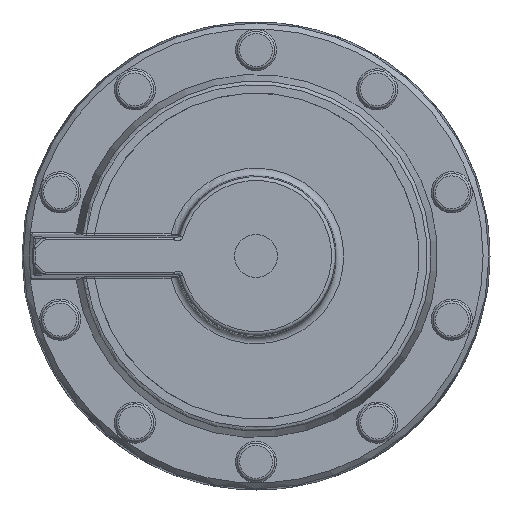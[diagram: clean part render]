
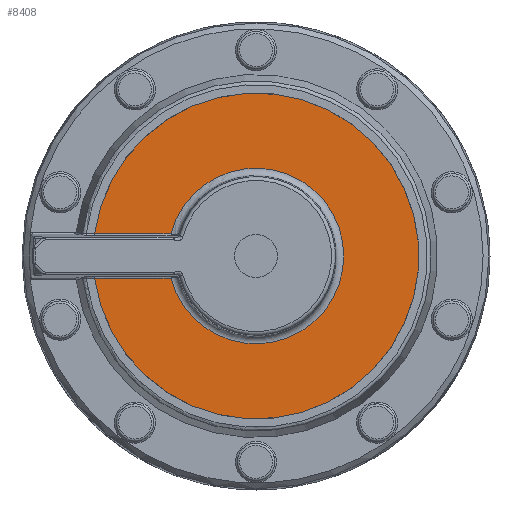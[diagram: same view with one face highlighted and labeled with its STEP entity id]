
A CAD part, front view. The second image highlights one B-rep face of the part: STEP entity #8408.
In plain terms, the highlighted planar face has unit normal (0, -1, 0).
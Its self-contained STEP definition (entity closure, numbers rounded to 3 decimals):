
#1169=PLANE('',#9143);
#1493=FACE_OUTER_BOUND('',#1994,.T.);
#1994=EDGE_LOOP('',(#6723,#6724,#6725,#6726));
#2468=LINE('',#14357,#2918);
#2469=LINE('',#14362,#2919);
#2918=VECTOR('',#10702,10.);
#2919=VECTOR('',#10707,10.);
#3406=CIRCLE('',#9141,23.444);
#3408=CIRCLE('',#9144,43.5);
#4013=VERTEX_POINT('',#14338);
#4014=VERTEX_POINT('',#14346);
#4015=VERTEX_POINT('',#14359);
#4016=VERTEX_POINT('',#14361);
#4999=EDGE_CURVE('',#4014,#4013,#2468,.T.);
#5001=EDGE_CURVE('',#4015,#4016,#2469,.T.);
#5006=EDGE_CURVE('',#4013,#4015,#3406,.T.);
#5008=EDGE_CURVE('',#4014,#4016,#3408,.T.);
#6723=ORIENTED_EDGE('',*,*,#4999,.F.);
#6724=ORIENTED_EDGE('',*,*,#5008,.T.);
#6725=ORIENTED_EDGE('',*,*,#5001,.F.);
#6726=ORIENTED_EDGE('',*,*,#5006,.F.);
#8408=ADVANCED_FACE('',(#1493),#1169,.T.);
#9141=AXIS2_PLACEMENT_3D('',#14450,#10712,#10713);
#9143=AXIS2_PLACEMENT_3D('',#14452,#10716,#10717);
#9144=AXIS2_PLACEMENT_3D('',#14453,#10718,#10719);
#10702=DIRECTION('',(1.,0.,0.));
#10707=DIRECTION('',(-1.,0.,0.));
#10712=DIRECTION('center_axis',(0.,-1.,0.));
#10713=DIRECTION('ref_axis',(-1.,0.,0.));
#10716=DIRECTION('center_axis',(0.,-1.,0.));
#10717=DIRECTION('ref_axis',(0.,0.,-1.));
#10718=DIRECTION('center_axis',(0.,-1.,0.));
#10719=DIRECTION('ref_axis',(-1.,0.,0.));
#14338=CARTESIAN_POINT('',(-22.693,-116.213,14.574));
#14346=CARTESIAN_POINT('',(-43.1,-116.213,14.574));
#14357=CARTESIAN_POINT('',(-46.37,-116.213,14.574));
#14359=CARTESIAN_POINT('',(-22.693,-116.213,26.35));
#14361=CARTESIAN_POINT('',(-43.1,-116.213,26.35));
#14362=CARTESIAN_POINT('',(-25.764,-116.213,26.35));
#14450=CARTESIAN_POINT('Origin',(0.,-116.213,
20.462));
#14452=CARTESIAN_POINT('Origin',(-33.472,-116.213,20.462));
#14453=CARTESIAN_POINT('Origin',(0.,-116.213,
20.462));
